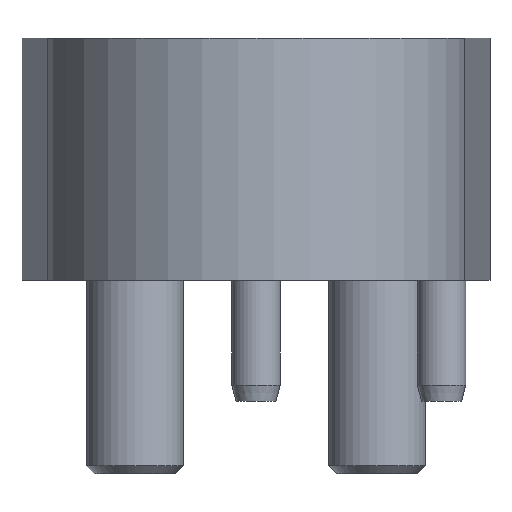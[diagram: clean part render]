
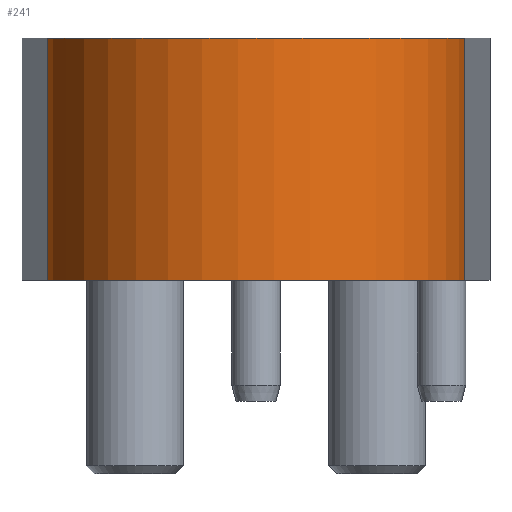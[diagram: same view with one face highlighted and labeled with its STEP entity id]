
A CAD part, left-side view. The second image highlights one B-rep face of the part: STEP entity #241.
In plain terms, the highlighted cylindrical face has radius 26 mm (diameter 52 mm), a partial arc.
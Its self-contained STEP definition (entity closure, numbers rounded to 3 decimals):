
#241=ADVANCED_FACE('',(#425),#376,.T.);
#376=CYLINDRICAL_SURFACE('',#2220,26.);
#425=FACE_OUTER_BOUND('',#543,.T.);
#543=EDGE_LOOP('',(#827,#828,#829,#830));
#703=CIRCLE('',#2218,26.);
#704=CIRCLE('',#2219,26.);
#827=ORIENTED_EDGE('',*,*,#1597,.T.);
#828=ORIENTED_EDGE('',*,*,#1598,.F.);
#829=ORIENTED_EDGE('',*,*,#1599,.F.);
#830=ORIENTED_EDGE('',*,*,#1600,.T.);
#1411=VERTEX_POINT('',#3163);
#1412=VERTEX_POINT('',#3164);
#1413=VERTEX_POINT('',#3166);
#1414=VERTEX_POINT('',#3168);
#1597=EDGE_CURVE('',#1411,#1412,#1889,.T.);
#1598=EDGE_CURVE('',#1413,#1412,#703,.T.);
#1599=EDGE_CURVE('',#1414,#1413,#1890,.T.);
#1600=EDGE_CURVE('',#1414,#1411,#704,.T.);
#1889=LINE('',#3162,#2053);
#1890=LINE('',#3167,#2054);
#2053=VECTOR('',#2479,1.);
#2054=VECTOR('',#2482,1.);
#2218=AXIS2_PLACEMENT_3D('',#3165,#2480,#2481);
#2219=AXIS2_PLACEMENT_3D('',#3169,#2483,#2484);
#2220=AXIS2_PLACEMENT_3D('',#3170,#2485,#2486);
#2479=DIRECTION('',(0.,0.,1.));
#2480=DIRECTION('',(0.,0.,1.));
#2481=DIRECTION('',(0.,1.,0.));
#2482=DIRECTION('',(0.,0.,1.));
#2483=DIRECTION('',(0.,0.,1.));
#2484=DIRECTION('',(0.,1.,0.));
#2485=DIRECTION('',(0.,0.,1.));
#2486=DIRECTION('',(-1.,0.,0.));
#3162=CARTESIAN_POINT('',(-2.342,-25.894,0.));
#3163=CARTESIAN_POINT('',(-2.342,-25.894,0.));
#3164=CARTESIAN_POINT('',(-2.342,-25.894,30.));
#3165=CARTESIAN_POINT('',(0.,0.,30.));
#3166=CARTESIAN_POINT('',(-2.342,25.894,30.));
#3167=CARTESIAN_POINT('',(-2.342,25.894,0.));
#3168=CARTESIAN_POINT('',(-2.342,25.894,0.));
#3169=CARTESIAN_POINT('',(0.,0.,0.));
#3170=CARTESIAN_POINT('',(0.,0.,0.));
